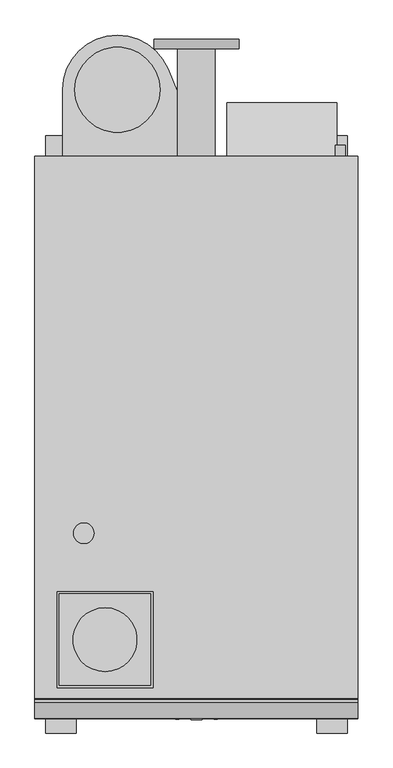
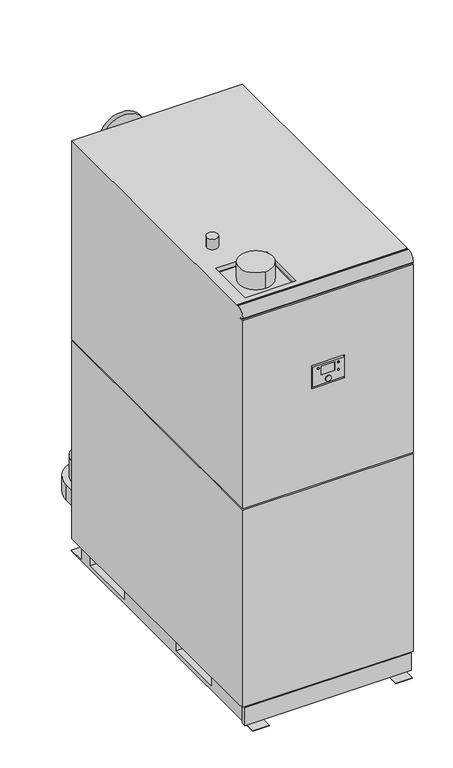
"""IFC4 building model written with IfcOpenShell, lengths in millimetres: unitary equipment geometry, AIC_Boiler_Nesta_Plus_280-840 : N 420 FS Chimney Type C."""

from ifc_helpers import new_model, si_unit, point, frame, frame_2d, origin, place, context, project, spatial, polyline, circle_curve, trimmed, segment, composite_curve, outline, extrude, faceted_brep, source, transform, mapped, element, save
from ifc_brep_helpers import plane_surface, cylinder_surface, advanced_brep


def unitary_equipment_db46aa15(model_context):
    return source(origin(), model_context, "Body", "SolidModel", [
        extrude(outline(composite_curve([segment(trimmed(circle_curve(frame_2d((100.0, 277.0)), 13.35), [point((100.0, 290.35))], [point((100.0, 263.65))], False, "CARTESIAN"), True, "CONTINUOUS"), segment(trimmed(circle_curve(frame_2d((100.0, 277.0)), 13.35), [point((100.0, 263.65))], [point((100.0, 290.35))], False, "CARTESIAN"), True, "CONTINUOUS")], self_intersect=False)), frame((0.0, 91.0, 0.0), z_axis=(0.0, 1.0, 0.0), x_axis=(0.0, 0.0, 1.0)), (0.0, 0.0, 1.0), 24.0),
        faceted_brep([(330.0, 0.0, 80.0), (330.0, 126.0, 80.0), (330.0, 126.0, 81.0), (330.0, 1.0, 81.0), (330.0, 1.0, 140.0), (330.0, 126.0, 140.0), (330.0, 126.0, 242.0), (330.0, 0.0, 310.0), (72.0, 0.0, 80.0), (72.0, 0.0, 310.0), (72.0, 126.0, 242.0), (72.0, 126.0, 80.0), (248.0, 126.0, 140.0), (248.0, 126.0, 81.0), (297.0, 1.0, 140.0), (297.0, 1.0, 81.0), (297.0, 91.0, 81.0), (297.0, 91.0, 140.0), (248.0, 91.0, 81.0), (248.0, 91.0, 140.0)], [[[0, 1, 2, 3, 4, 5, 6, 7]], [[8, 9, 10, 11]], [[1, 0, 8, 11]], [[11, 10, 6, 5, 12, 13, 2, 1]], [[7, 6, 10, 9]], [[0, 7, 9, 8]], [[14, 4, 3, 15]], [[14, 15, 16, 17]], [[15, 3, 2, 13, 18, 16]], [[4, 14, 17, 19, 12, 5]], [[19, 17, 16, 18]], [[19, 18, 13, 12]]]),
        extrude(outline(composite_curve([segment(trimmed(circle_curve(frame_2d((1520.0, 0.0)), 13.0), [point((1520.0, -13.0))], [point((1520.0, 13.0))], False, "CARTESIAN"), True, "CONTINUOUS"), segment(trimmed(circle_curve(frame_2d((1520.0, 0.0)), 13.0), [point((1520.0, 13.0))], [point((1520.0, -13.0))], False, "CARTESIAN"), True, "CONTINUOUS")], self_intersect=False)), frame((0.0, -1323.0, 0.0), z_axis=(0.0, 1.0, 0.0), x_axis=(0.0, 0.0, 1.0)), (0.0, 0.0, 1.0), 3.0),
        extrude(outline(composite_curve([segment(trimmed(circle_curve(frame_2d((1581.0, -45.0)), 4.0), [point((1581.0, -49.0))], [point((1581.0, -41.0))], False, "CARTESIAN"), True, "CONTINUOUS"), segment(trimmed(circle_curve(frame_2d((1581.0, -45.0)), 4.0), [point((1581.0, -41.0))], [point((1581.0, -49.0))], False, "CARTESIAN"), True, "CONTINUOUS")], self_intersect=False)), frame((0.0, -1322.0, 0.0), z_axis=(0.0, 1.0, 0.0), x_axis=(0.0, 0.0, 1.0)), (0.0, 0.0, 1.0), 2.0),
        extrude(outline(composite_curve([segment(trimmed(circle_curve(frame_2d((1581.0, 45.0)), 4.0), [point((1581.0, 41.0))], [point((1581.0, 49.0))], False, "CARTESIAN"), True, "CONTINUOUS"), segment(trimmed(circle_curve(frame_2d((1581.0, 45.0)), 4.0), [point((1581.0, 49.0))], [point((1581.0, 41.0))], False, "CARTESIAN"), True, "CONTINUOUS")], self_intersect=False)), frame((0.0, -1322.0, 0.0), z_axis=(0.0, 1.0, 0.0), x_axis=(0.0, 0.0, 1.0)), (0.0, 0.0, 1.0), 2.0),
        extrude(outline(composite_curve([segment(trimmed(circle_curve(frame_2d((1546.0, 45.0)), 4.0), [point((1546.0, 41.0))], [point((1546.0, 49.0))], False, "CARTESIAN"), True, "CONTINUOUS"), segment(trimmed(circle_curve(frame_2d((1546.0, 45.0)), 4.0), [point((1546.0, 49.0))], [point((1546.0, 41.0))], False, "CARTESIAN"), True, "CONTINUOUS")], self_intersect=False)), frame((0.0, -1322.0, 0.0), z_axis=(0.0, 1.0, 0.0), x_axis=(0.0, 0.0, 1.0)), (0.0, 0.0, 1.0), 2.0),
        faceted_brep([(71.0, -1310.0, 1596.0), (71.0, -1310.0, 1502.0), (-71.0, -1310.0, 1502.0), (-71.0, -1310.0, 1596.0), (71.0, -1320.0, 1596.0), (-71.0, -1320.0, 1596.0), (-71.0, -1320.0, 1502.0), (71.0, -1320.0, 1502.0), (-30.0, -1320.0, 1585.0), (30.0, -1320.0, 1585.0), (30.0, -1320.0, 1545.0), (-30.0, -1320.0, 1545.0), (30.0, -1319.0, 1585.0), (-30.0, -1319.0, 1585.0), (-30.0, -1319.0, 1545.0), (30.0, -1319.0, 1545.0)], [[[0, 1, 2, 3]], [[4, 5, 6, 7], [8, 9, 10, 11]], [[0, 3, 5, 4]], [[3, 2, 6, 5]], [[2, 1, 7, 6]], [[1, 0, 4, 7]], [[12, 13, 14, 15]], [[13, 12, 9, 8]], [[14, 13, 8, 11]], [[15, 14, 11, 10]], [[12, 15, 10, 9]]]),
        extrude(outline(composite_curve([segment(trimmed(circle_curve(frame_2d((-265.0, -885.0)), 24.15), [point((-289.15, -885.0))], [point((-240.85, -885.0))], False, "CARTESIAN"), True, "CONTINUOUS"), segment(trimmed(circle_curve(frame_2d((-265.0, -885.0)), 24.15), [point((-240.85, -885.0))], [point((-289.15, -885.0))], False, "CARTESIAN"), True, "CONTINUOUS")], self_intersect=False)), frame((0.0, 0.0, 1970.0), z_axis=(0.0, 0.0, 1.0), x_axis=(1.0, 0.0, 0.0)), (0.0, 0.0, 1.0), 49.0),
        extrude(outline(composite_curve([segment(trimmed(circle_curve(frame_2d((1038.0, 338.0)), 11.6), [point((1038.0, 326.4))], [point((1038.0, 349.6))], False, "CARTESIAN"), True, "CONTINUOUS"), segment(trimmed(circle_curve(frame_2d((1038.0, 338.0)), 11.6), [point((1038.0, 349.6))], [point((1038.0, 326.4))], False, "CARTESIAN"), True, "CONTINUOUS")], self_intersect=False)), frame((0.0, 0.0, 0.0), z_axis=(0.0, 1.0, 0.0), x_axis=(0.0, 0.0, 1.0)), (0.0, 0.0, 1.0), 26.0),
        extrude(outline(composite_curve([segment(trimmed(circle_curve(frame_2d((-215.0, -1135.0)), 75.0), [point((-215.0, -1060.0))], [point((-215.0, -1210.0))], False, "CARTESIAN"), True, "CONTINUOUS"), segment(trimmed(circle_curve(frame_2d((-215.0, -1135.0)), 75.0), [point((-215.0, -1210.0))], [point((-215.0, -1060.0))], False, "CARTESIAN"), True, "CONTINUOUS")], self_intersect=False)), frame((0.0, 0.0, 1950.0), z_axis=(0.0, 0.0, 1.0), x_axis=(1.0, 0.0, 0.0)), (0.0, 0.0, 1.0), 80.0),
        extrude(outline(polyline([(-107.5, -1027.5), (-107.5, -1242.5), (-322.5, -1242.5), (-322.5, -1027.5), (-107.5, -1027.5)])), frame((0.0, 0.0, 1950.0), z_axis=(0.0, 0.0, 1.0), x_axis=(1.0, 0.0, 0.0)), (0.0, 0.0, 1.0), 1.0),
        advanced_brep(
        [(100.0, 253.0, 1706.0), (-100.0, 253.0, 1706.0), (44.0, 253.0, 1706.0), (-44.0, 253.0, 1706.0), (100.0, 275.0, 1706.0), (-100.0, 275.0, 1706.0), (-44.0, -10.0, 1706.0), (44.0, -10.0, 1706.0)],
        [
            (0, 1, circle_curve(frame((0.0, 253.0, 1706.0), z_axis=(0.0, -1.0, 0.0), x_axis=(-1.0, 0.0, 0.0)), 100.0)),
            (1, 0, circle_curve(frame((0.0, 253.0, 1706.0), z_axis=(0.0, -1.0, 0.0), x_axis=(-1.0, 0.0, 0.0)), 100.0)),
            (2, 3, circle_curve(frame((0.0, 253.0, 1706.0), z_axis=(0.0, 1.0, 0.0), x_axis=(1.0, 0.0, 0.0)), 44.0)),
            (3, 2, circle_curve(frame((0.0, 253.0, 1706.0), z_axis=(0.0, 1.0, 0.0), x_axis=(1.0, 0.0, 0.0)), 44.0)),
            (4, 5, circle_curve(frame((0.0, 275.0, 1706.0), z_axis=(0.0, 1.0, 0.0), x_axis=(-1.0, 0.0, 0.0)), 100.0)),
            (5, 4, circle_curve(frame((0.0, 275.0, 1706.0), z_axis=(0.0, 1.0, 0.0), x_axis=(-1.0, 0.0, 0.0)), 100.0)),
            (1, 5),
            (4, 0),
            (6, 7, circle_curve(frame((0.0, -10.0, 1706.0), z_axis=(0.0, -1.0, 0.0), x_axis=(1.0, 0.0, 0.0)), 44.0)),
            (7, 6, circle_curve(frame((0.0, -10.0, 1706.0), z_axis=(0.0, -1.0, 0.0), x_axis=(1.0, 0.0, 0.0)), 44.0)),
            (6, 3),
            (2, 7),
        ],
        [
            plane_surface(frame((-100.0, 253.0, 1706.0), z_axis=(0.0, -1.0, 0.0), x_axis=(0.0, 0.0, -1.0))),
            plane_surface(frame((-100.0, 275.0, 1706.0), z_axis=(0.0, 1.0, 0.0), x_axis=(0.0, 0.0, 1.0))),
            cylinder_surface(frame((0.0, 253.0, 1706.0), z_axis=(0.0, 1.0, 0.0), x_axis=(-1.0, 0.0, 0.0)), 100.0),
            plane_surface(frame((44.0, -10.0, 1706.0), z_axis=(0.0, -1.0, 0.0), x_axis=(0.0, 0.0, 1.0))),
            cylinder_surface(frame((0.0, 275.0, 1706.0), z_axis=(0.0, -1.0, 0.0), x_axis=(1.0, 0.0, 0.0)), 44.0),
        ],
        [
            (0, [[1, 2], [3, 4]]),
            (1, [[5, 6]]),
            (2, [[-2, 7, -5, 8]]),
            (2, [[-1, -8, -6, -7]]),
            (3, [[9, 10]]),
            (4, [[-9, 11, -3, 12]]),
            (4, [[-10, -12, -4, -11]]),
        ],
    ),
        advanced_brep(
        [(-44.0, 0.0, 335.0), (44.0, 0.0, 335.0), (100.0, 275.0, 335.0), (-100.0, 275.0, 335.0), (-44.0, 253.0, 335.0), (44.0, 253.0, 335.0), (100.0, 253.0, 335.0), (-100.0, 253.0, 335.0)],
        [
            (0, 1, circle_curve(frame((0.0, 0.0, 335.0), z_axis=(0.0, -1.0, 0.0), x_axis=(1.0, 0.0, 0.0)), 44.0)),
            (1, 0, circle_curve(frame((0.0, 0.0, 335.0), z_axis=(0.0, -1.0, 0.0), x_axis=(1.0, 0.0, 0.0)), 44.0)),
            (2, 3, circle_curve(frame((0.0, 275.0, 335.0), z_axis=(0.0, 1.0, 0.0), x_axis=(-1.0, 0.0, 0.0)), 100.0)),
            (3, 2, circle_curve(frame((0.0, 275.0, 335.0), z_axis=(0.0, 1.0, 0.0), x_axis=(-1.0, 0.0, 0.0)), 100.0)),
            (0, 4),
            (4, 5, circle_curve(frame((0.0, 253.0, 335.0), z_axis=(0.0, -1.0, 0.0), x_axis=(1.0, 0.0, 0.0)), 44.0)),
            (5, 1),
            (5, 4, circle_curve(frame((0.0, 253.0, 335.0), z_axis=(0.0, -1.0, 0.0), x_axis=(1.0, 0.0, 0.0)), 44.0)),
            (6, 7, circle_curve(frame((0.0, 253.0, 335.0), z_axis=(0.0, -1.0, 0.0), x_axis=(-1.0, 0.0, 0.0)), 100.0)),
            (7, 6, circle_curve(frame((0.0, 253.0, 335.0), z_axis=(0.0, -1.0, 0.0), x_axis=(-1.0, 0.0, 0.0)), 100.0)),
            (7, 3),
            (2, 6),
        ],
        [
            plane_surface(frame((44.0, 0.0, 335.0), z_axis=(0.0, -1.0, 0.0), x_axis=(0.0, 0.0, 1.0))),
            plane_surface(frame((44.0, 275.0, 335.0), z_axis=(0.0, 1.0, 0.0), x_axis=(0.0, 0.0, -1.0))),
            cylinder_surface(frame((0.0, 275.0, 335.0), z_axis=(0.0, -1.0, 0.0), x_axis=(1.0, 0.0, 0.0)), 44.0),
            plane_surface(frame((-100.0, 253.0, 335.0), z_axis=(0.0, -1.0, 0.0), x_axis=(0.0, 0.0, -1.0))),
            cylinder_surface(frame((0.0, 253.0, 335.0), z_axis=(0.0, 1.0, 0.0), x_axis=(-1.0, 0.0, 0.0)), 100.0),
        ],
        [
            (0, [[1, 2]]),
            (1, [[3, 4]]),
            (2, [[-1, 5, 6, 7]]),
            (2, [[-2, -7, 8, -5]]),
            (3, [[9, 10], [-6, -8]]),
            (4, [[-10, 11, -3, 12]]),
            (4, [[-9, -12, -4, -11]]),
        ],
    ),
        extrude(outline(composite_curve([segment(trimmed(circle_curve(frame_2d((-186.0, 157.0)), 100.0), [point((-86.0, 157.0))], [point((-286.0, 157.0))], False, "CARTESIAN"), True, "CONTINUOUS"), segment(trimmed(circle_curve(frame_2d((-186.0, 157.0)), 100.0), [point((-286.0, 157.0))], [point((-86.0, 157.0))], False, "CARTESIAN"), True, "CONTINUOUS")], self_intersect=False)), frame((0.0, 0.0, 228.0), z_axis=(0.0, 0.0, 1.0), x_axis=(1.0, 0.0, 0.0)), (0.0, 0.0, 1.0), 97.0),
        extrude(outline(composite_curve([segment(trimmed(circle_curve(frame_2d((-186.0, 157.0)), 128.4478761), [point((-314.4478761, 157.0))], [point((-67.3169163, 206.1241541))], False, "CARTESIAN"), True, "CONTINUOUS"), segment(polyline([(-67.3169163, 206.1241541), (18.0, 0.0), (-314.4478761, 0.0), (-314.4478761, 157.0)]), True, "CONTINUOUS")], self_intersect=False)), frame((0.0, 0.0, 157.0), z_axis=(0.0, 0.0, 1.0), x_axis=(1.0, 0.0, 0.0)), (0.0, 0.0, 1.0), 71.0),
        advanced_brep(
        [(380.0, 0.0, 1970.0), (-380.0, 0.0, 1970.0), (-380.0, -1272.0, 1970.0), (380.0, -1272.0, 1970.0), (-328.0, -1022.0, 1970.0), (-102.0, -1022.0, 1970.0), (-102.0, -1248.0, 1970.0), (-328.0, -1248.0, 1970.0), (-380.0, -1281.6616502, 1970.0), (380.0, -1281.6616502, 1970.0), (380.0, -1276.0, 1970.0), (-380.0, -1276.0, 1970.0), (36.0, -1300.0, 0.0), (-36.0, -1300.0, 0.0), (-36.0, -31.0, 0.0), (36.0, -31.0, 0.0), (-355.0, 49.0, 0.0), (-283.0, 49.0, 0.0), (-283.0, -1354.0, 0.0), (-355.0, -1354.0, 0.0), (283.0, 49.0, 0.0), (355.0, 49.0, 0.0), (355.0, -1354.0, 0.0), (283.0, -1354.0, 0.0), (380.0, 0.0, 1036.0), (380.0, -1272.0, 1968.0), (380.0, -1276.0, 1968.0), (380.0, -1320.0, 1931.6616502), (380.0, -1320.0, 1929.0), (380.0, -1300.0, 1929.0), (380.0, -1300.0, 1923.0), (380.0, -1320.0, 1923.0), (380.0, -1320.0, 1036.0), (380.0, 0.0, 1030.0), (380.0, -1320.0, 1030.0), (380.0, -1320.0, 100.0), (380.0, -1300.0, 100.0), (380.0, -1300.0, 95.0), (380.0, 0.0, 95.0), (371.0, 0.0, 1036.0), (371.0, 0.0, 1030.0), (-380.0, 0.0, 95.0), (-380.0, 0.0, 1030.0), (-371.0, 0.0, 1030.0), (-371.0, 0.0, 1036.0), (-380.0, 0.0, 1036.0), (-380.0, -1320.0, 1036.0), (-380.0, -1320.0, 1923.0), (-380.0, -1300.0, 1923.0), (-380.0, -1300.0, 1929.0), (-380.0, -1320.0, 1929.0), (-380.0, -1320.0, 1931.6616502), (-380.0, -1276.0, 1968.0), (-380.0, -1272.0, 1968.0), (-380.0, -1320.0, 1030.0), (-380.0, -1300.0, 95.0), (-380.0, -1300.0, 100.0), (-380.0, -1320.0, 100.0), (-73.0, -1320.0, 1603.0), (73.0, -1320.0, 1603.0), (73.0, -1320.0, 1495.0), (-73.0, -1320.0, 1495.0), (371.0, -1320.0, 12.0), (371.0, -1320.0, 95.0), (-371.0, -1320.0, 95.0), (-371.0, -1320.0, 12.0), (-371.0, -1300.0, 1036.0), (371.0, -1300.0, 1036.0), (371.0, -1300.0, 1030.0), (-371.0, -1300.0, 1030.0), (36.0, -1300.0, 12.0), (-36.0, -1300.0, 12.0), (-371.0, -1300.0, 95.0), (-355.0, -1300.0, 95.0), (-283.0, -1300.0, 95.0), (-36.0, -1300.0, 95.0), (36.0, -1300.0, 95.0), (283.0, -1300.0, 95.0), (355.0, -1300.0, 95.0), (371.0, -1300.0, 95.0), (-283.0, -1300.0, 12.0), (-355.0, -1300.0, 12.0), (-355.0, -1300.0, 3.0), (-283.0, -1300.0, 3.0), (355.0, -1300.0, 12.0), (283.0, -1300.0, 12.0), (283.0, -1300.0, 3.0), (355.0, -1300.0, 3.0), (371.0, -1300.0, 12.0), (-371.0, -1300.0, 12.0), (-36.0, -1300.0, 95.0), (-283.0, -1300.0, 95.0), (-283.0, -31.0, 95.0), (-355.0, -31.0, 95.0), (-355.0, -1300.0, 95.0), (355.0, -1300.0, 95.0), (355.0, -31.0, 95.0), (283.0, -31.0, 95.0), (283.0, -1300.0, 95.0), (36.0, -1300.0, 95.0), (36.0, -31.0, 95.0), (-36.0, -31.0, 95.0), (-355.0, -31.0, 3.0), (-355.0, 49.0, 3.0), (-355.0, -1354.0, 3.0), (-355.0, -762.0, 80.0), (-355.0, -1034.0, 80.0), (-355.0, -1034.0, 20.0), (-355.0, -762.0, 20.0), (-355.0, -100.0, 80.0), (-355.0, -362.0, 80.0), (-355.0, -362.0, 20.0), (-355.0, -100.0, 20.0), (355.0, -1354.0, 3.0), (355.0, 49.0, 3.0), (355.0, -31.0, 3.0), (355.0, -1034.0, 80.0), (355.0, -762.0, 80.0), (355.0, -762.0, 20.0), (355.0, -1034.0, 20.0), (355.0, -362.0, 80.0), (355.0, -100.0, 80.0), (355.0, -100.0, 20.0), (355.0, -362.0, 20.0), (-283.0, -1354.0, 3.0), (-283.0, 49.0, 3.0), (-283.0, -31.0, 3.0), (-283.0, -1034.0, 80.0), (-283.0, -762.0, 80.0), (-283.0, -762.0, 20.0), (-283.0, -1034.0, 20.0), (-283.0, -362.0, 80.0), (-283.0, -100.0, 80.0), (-283.0, -100.0, 20.0), (-283.0, -362.0, 20.0), (-36.0, -762.0, 80.0), (-36.0, -1034.0, 80.0), (-36.0, -1034.0, 20.0), (-36.0, -762.0, 20.0), (-36.0, -100.0, 80.0), (-36.0, -362.0, 80.0), (-36.0, -362.0, 20.0), (-36.0, -100.0, 20.0), (36.0, -1034.0, 80.0), (36.0, -762.0, 80.0), (36.0, -762.0, 20.0), (36.0, -1034.0, 20.0), (36.0, -362.0, 80.0), (36.0, -100.0, 80.0), (36.0, -100.0, 20.0), (36.0, -362.0, 20.0), (283.0, -31.0, 3.0), (283.0, 49.0, 3.0), (283.0, -1354.0, 3.0), (283.0, -762.0, 80.0), (283.0, -1034.0, 80.0), (283.0, -1034.0, 20.0), (283.0, -762.0, 20.0), (283.0, -100.0, 80.0), (283.0, -362.0, 80.0), (283.0, -362.0, 20.0), (283.0, -100.0, 20.0), (73.0, -1300.0, 1603.0), (-73.0, -1300.0, 1603.0), (-73.0, -1300.0, 1495.0), (73.0, -1300.0, 1495.0), (-102.0, -1022.0, 1950.0), (-328.0, -1022.0, 1950.0), (-328.0, -1248.0, 1950.0), (-102.0, -1248.0, 1950.0)],
        [
            (0, 1),
            (1, 2),
            (2, 3),
            (3, 0),
            (4, 5),
            (5, 6),
            (6, 7),
            (7, 4),
            (8, 9),
            (9, 10),
            (10, 11),
            (11, 8),
            (12, 13),
            (13, 14),
            (14, 15),
            (15, 12),
            (16, 17),
            (17, 18),
            (18, 19),
            (19, 16),
            (20, 21),
            (21, 22),
            (22, 23),
            (23, 20),
            (24, 0),
            (3, 25),
            (25, 26),
            (26, 10),
            (9, 27, circle_curve(frame((380.0, -1281.6616502, 1931.6616502), z_axis=(1.0, 0.0, 0.0), x_axis=(0.0, 1.0, 0.0)), 38.3383498)),
            (27, 28),
            (28, 29),
            (29, 30),
            (30, 31),
            (31, 32),
            (32, 24),
            (33, 34),
            (34, 35),
            (35, 36),
            (36, 37),
            (37, 38),
            (38, 33),
            (24, 39),
            (39, 40),
            (40, 33),
            (38, 41),
            (41, 42),
            (42, 43),
            (43, 44),
            (44, 45),
            (45, 1),
            (45, 46),
            (46, 47),
            (47, 48),
            (48, 49),
            (49, 50),
            (50, 51),
            (51, 8, circle_curve(frame((-380.0, -1281.6616502, 1931.6616502), z_axis=(-1.0, 0.0, 0.0), x_axis=(0.0, 1.0, 0.0)), 38.3383498)),
            (11, 52),
            (52, 53),
            (53, 2),
            (54, 42),
            (41, 55),
            (55, 56),
            (56, 57),
            (57, 54),
            (46, 32),
            (31, 47),
            (58, 59),
            (59, 60),
            (60, 61),
            (61, 58),
            (34, 54),
            (57, 35),
            (27, 51),
            (50, 28),
            (62, 63),
            (63, 64),
            (64, 65),
            (65, 62),
            (44, 66),
            (66, 67),
            (67, 39),
            (40, 68),
            (68, 69),
            (69, 43),
            (67, 68),
            (66, 69),
            (30, 48),
            (29, 49),
            (26, 52),
            (25, 53),
            (12, 70),
            (70, 71),
            (71, 13),
            (36, 56),
            (55, 72),
            (72, 73),
            (73, 74),
            (74, 75),
            (75, 76),
            (76, 77),
            (77, 78),
            (78, 79),
            (79, 37),
            (80, 81),
            (81, 82),
            (82, 83),
            (83, 80),
            (84, 85),
            (85, 86),
            (86, 87),
            (87, 84),
            (62, 88),
            (88, 79),
            (79, 63),
            (65, 89),
            (89, 81),
            (80, 71),
            (70, 85),
            (84, 88),
            (64, 72),
            (72, 89),
            (90, 91),
            (91, 92),
            (92, 93),
            (93, 94),
            (94, 72),
            (79, 95),
            (95, 96),
            (96, 97),
            (97, 98),
            (98, 99),
            (99, 100),
            (100, 101),
            (101, 90),
            (94, 81),
            (93, 102),
            (102, 103),
            (103, 16),
            (19, 104),
            (104, 82),
            (105, 106),
            (106, 107),
            (107, 108),
            (108, 105),
            (109, 110),
            (110, 111),
            (111, 112),
            (112, 109),
            (95, 84),
            (87, 113),
            (113, 22),
            (21, 114),
            (114, 115),
            (115, 96),
            (116, 117),
            (117, 118),
            (118, 119),
            (119, 116),
            (120, 121),
            (121, 122),
            (122, 123),
            (123, 120),
            (91, 80),
            (83, 124),
            (124, 18),
            (17, 125),
            (125, 126),
            (126, 92),
            (127, 128),
            (128, 129),
            (129, 130),
            (130, 127),
            (131, 132),
            (132, 133),
            (133, 134),
            (134, 131),
            (90, 71),
            (101, 14),
            (135, 136),
            (136, 137),
            (137, 138),
            (138, 135),
            (139, 140),
            (140, 141),
            (141, 142),
            (142, 139),
            (99, 70),
            (15, 100),
            (143, 144),
            (144, 145),
            (145, 146),
            (146, 143),
            (147, 148),
            (148, 149),
            (149, 150),
            (150, 147),
            (98, 85),
            (97, 151),
            (151, 152),
            (152, 20),
            (23, 153),
            (153, 86),
            (154, 155),
            (155, 156),
            (156, 157),
            (157, 154),
            (158, 159),
            (159, 160),
            (160, 161),
            (161, 158),
            (126, 102),
            (115, 151),
            (105, 128),
            (127, 106),
            (135, 144),
            (143, 136),
            (154, 117),
            (116, 155),
            (130, 107),
            (146, 137),
            (119, 156),
            (129, 108),
            (145, 138),
            (118, 157),
            (109, 132),
            (131, 110),
            (139, 148),
            (147, 140),
            (158, 121),
            (120, 159),
            (134, 111),
            (150, 141),
            (123, 160),
            (133, 112),
            (149, 142),
            (122, 161),
            (114, 152),
            (125, 103),
            (104, 124),
            (153, 113),
            (162, 163),
            (163, 164),
            (164, 165),
            (165, 162),
            (162, 59),
            (58, 163),
            (61, 164),
            (60, 165),
            (166, 167),
            (167, 168),
            (168, 169),
            (169, 166),
            (166, 5),
            (4, 167),
            (7, 168),
            (6, 169),
        ],
        [
            plane_surface(frame((380.0, -1320.0, 1970.0), z_axis=(0.0, 0.0, 1.0), x_axis=(0.0, 1.0, 0.0))),
            plane_surface(frame((380.0, -1320.0, 0.0), z_axis=(0.0, 0.0, -1.0), x_axis=(0.0, -1.0, 0.0))),
            plane_surface(frame((380.0, -1320.0, 1970.0), z_axis=(1.0, 0.0, 0.0), x_axis=(0.0, 0.0, -1.0))),
            plane_surface(frame((380.0, 0.0, 1970.0), z_axis=(0.0, 1.0, 0.0), x_axis=(0.0, 0.0, -1.0))),
            plane_surface(frame((-380.0, 0.0, 1970.0), z_axis=(-1.0, 0.0, 0.0), x_axis=(0.0, 0.0, -1.0))),
            plane_surface(frame((-380.0, -1320.0, 1970.0), z_axis=(0.0, -1.0, 0.0), x_axis=(0.0, 0.0, -1.0))),
            plane_surface(frame((-380.0, 0.0, 1036.0), z_axis=(0.0, 0.0, -1.0), x_axis=(-1.0, 0.0, 0.0))),
            plane_surface(frame((-380.0, 0.0, 1030.0), z_axis=(0.0, 0.0, 1.0), x_axis=(1.0, 0.0, 0.0))),
            plane_surface(frame((371.0, 0.0, 1036.0), z_axis=(1.0, 0.0, 0.0), x_axis=(0.0, 0.0, -1.0))),
            plane_surface(frame((371.0, -1300.0, 1036.0), z_axis=(0.0, -1.0, 0.0), x_axis=(0.0, 0.0, -1.0))),
            plane_surface(frame((-371.0, -1300.0, 1036.0), z_axis=(-1.0, 0.0, 0.0), x_axis=(0.0, 0.0, -1.0))),
            cylinder_surface(frame((-380.0, -1281.6616502, 1931.6616502), z_axis=(-1.0, 0.0, 0.0), x_axis=(0.0, 1.0, 0.0)), 38.3383498),
            plane_surface(frame((380.0, -1320.0, 1923.0), z_axis=(0.0, 0.0, 1.0), x_axis=(-1.0, 0.0, 0.0))),
            plane_surface(frame((380.0, -1300.0, 1923.0), z_axis=(0.0, -1.0, 0.0), x_axis=(-1.0, 0.0, 0.0))),
            plane_surface(frame((380.0, -1300.0, 1929.0), z_axis=(0.0, 0.0, -1.0), x_axis=(-1.0, 0.0, 0.0))),
            plane_surface(frame((380.0, -1276.0, 1970.0), z_axis=(0.0, 1.0, 0.0), x_axis=(-1.0, 0.0, 0.0))),
            plane_surface(frame((380.0, -1276.0, 1968.0), z_axis=(0.0, 0.0, 1.0), x_axis=(-1.0, 0.0, 0.0))),
            plane_surface(frame((380.0, -1272.0, 1968.0), z_axis=(0.0, -1.0, 0.0), x_axis=(-1.0, 0.0, 0.0))),
            plane_surface(frame((371.0, -1300.0, 95.0), z_axis=(0.0, -1.0, 0.0), x_axis=(0.0, 0.0, 1.0))),
            plane_surface(frame((371.0, -1320.0, 95.0), z_axis=(1.0, 0.0, 0.0), x_axis=(0.0, 1.0, 0.0))),
            plane_surface(frame((371.0, -1320.0, 12.0), z_axis=(0.0, 0.0, -1.0), x_axis=(0.0, 1.0, 0.0))),
            plane_surface(frame((-371.0, -1320.0, 12.0), z_axis=(-1.0, 0.0, 0.0), x_axis=(0.0, 1.0, 0.0))),
            plane_surface(frame((-371.0, -1320.0, 95.0), z_axis=(0.0, 0.0, 1.0), x_axis=(0.0, 1.0, 0.0))),
            plane_surface(frame((380.0, -1320.0, 100.0), z_axis=(0.0, 0.0, -1.0), x_axis=(0.0, 1.0, 0.0))),
            plane_surface(frame((-380.0, 0.0, 95.0), z_axis=(0.0, 0.0, -1.0), x_axis=(-1.0, 0.0, 0.0))),
            plane_surface(frame((-380.0, -1300.0, 95.0), z_axis=(0.0, 1.0, 0.0), x_axis=(0.0, 0.0, -1.0))),
            plane_surface(frame((-355.0, -1300.0, 95.0), z_axis=(-1.0, 0.0, 0.0), x_axis=(0.0, 0.0, -1.0))),
            plane_surface(frame((355.0, 0.0, 95.0), z_axis=(1.0, 0.0, 0.0), x_axis=(0.0, 0.0, -1.0))),
            plane_surface(frame((355.0, -1300.0, 95.0), z_axis=(0.0, 1.0, 0.0), x_axis=(0.0, 0.0, -1.0))),
            plane_surface(frame((-283.0, 0.0, 95.0), z_axis=(1.0, 0.0, 0.0), x_axis=(0.0, 0.0, -1.0))),
            plane_surface(frame((-283.0, -1300.0, 95.0), z_axis=(0.0, 1.0, 0.0), x_axis=(0.0, 0.0, -1.0))),
            plane_surface(frame((-36.0, -1300.0, 95.0), z_axis=(-1.0, 0.0, 0.0), x_axis=(0.0, 0.0, -1.0))),
            plane_surface(frame((36.0, 0.0, 95.0), z_axis=(1.0, 0.0, 0.0), x_axis=(0.0, 0.0, -1.0))),
            plane_surface(frame((36.0, -1300.0, 95.0), z_axis=(0.0, 1.0, 0.0), x_axis=(0.0, 0.0, -1.0))),
            plane_surface(frame((283.0, -1300.0, 95.0), z_axis=(-1.0, 0.0, 0.0), x_axis=(0.0, 0.0, -1.0))),
            plane_surface(frame((-380.0, -31.0, 95.0), z_axis=(0.0, 1.0, 0.0), x_axis=(0.0, 0.0, -1.0))),
            plane_surface(frame((355.0, -762.0, 80.0), z_axis=(0.0, 0.0, -1.0), x_axis=(-1.0, 0.0, 0.0))),
            plane_surface(frame((355.0, -1034.0, 80.0), z_axis=(0.0, 1.0, 0.0), x_axis=(-1.0, 0.0, 0.0))),
            plane_surface(frame((355.0, -1034.0, 20.0), z_axis=(0.0, 0.0, 1.0), x_axis=(-1.0, 0.0, 0.0))),
            plane_surface(frame((355.0, -762.0, 20.0), z_axis=(0.0, -1.0, 0.0), x_axis=(-1.0, 0.0, 0.0))),
            plane_surface(frame((355.0, -100.0, 80.0), z_axis=(0.0, 0.0, -1.0), x_axis=(-1.0, 0.0, 0.0))),
            plane_surface(frame((355.0, -362.0, 80.0), z_axis=(0.0, 1.0, 0.0), x_axis=(-1.0, 0.0, 0.0))),
            plane_surface(frame((355.0, -362.0, 20.0), z_axis=(0.0, 0.0, 1.0), x_axis=(-1.0, 0.0, 0.0))),
            plane_surface(frame((355.0, -100.0, 20.0), z_axis=(0.0, -1.0, 0.0), x_axis=(-1.0, 0.0, 0.0))),
            plane_surface(frame((-355.0, 49.0, 3.0), z_axis=(0.0, 0.0, 1.0), x_axis=(-1.0, 0.0, 0.0))),
            plane_surface(frame((-283.0, 49.0, 3.0), z_axis=(0.0, 1.0, 0.0), x_axis=(0.0, 0.0, -1.0))),
            plane_surface(frame((355.0, 49.0, 3.0), z_axis=(0.0, 1.0, 0.0), x_axis=(0.0, 0.0, -1.0))),
            plane_surface(frame((-355.0, -1354.0, 3.0), z_axis=(0.0, -1.0, 0.0), x_axis=(0.0, 0.0, -1.0))),
            plane_surface(frame((283.0, -1354.0, 3.0), z_axis=(0.0, -1.0, 0.0), x_axis=(0.0, 0.0, -1.0))),
            plane_surface(frame((-73.0, -1300.0, 1603.0), z_axis=(0.0, -1.0, 0.0), x_axis=(1.0, 0.0, 0.0))),
            plane_surface(frame((73.0, -1320.0, 1603.0), z_axis=(0.0, 0.0, -1.0), x_axis=(0.0, 1.0, 0.0))),
            plane_surface(frame((-73.0, -1320.0, 1603.0), z_axis=(1.0, 0.0, 0.0), x_axis=(0.0, 1.0, 0.0))),
            plane_surface(frame((-73.0, -1320.0, 1495.0), z_axis=(0.0, 0.0, 1.0), x_axis=(0.0, 1.0, 0.0))),
            plane_surface(frame((73.0, -1320.0, 1495.0), z_axis=(-1.0, 0.0, 0.0), x_axis=(0.0, 1.0, 0.0))),
            plane_surface(frame((-328.0, -1022.0, 1950.0), z_axis=(0.0, 0.0, 1.0), x_axis=(1.0, 0.0, 0.0))),
            plane_surface(frame((-102.0, -1022.0, 1970.0), z_axis=(0.0, -1.0, 0.0), x_axis=(0.0, 0.0, -1.0))),
            plane_surface(frame((-328.0, -1022.0, 1970.0), z_axis=(1.0, 0.0, 0.0), x_axis=(0.0, 0.0, -1.0))),
            plane_surface(frame((-328.0, -1248.0, 1970.0), z_axis=(0.0, 1.0, 0.0), x_axis=(0.0, 0.0, -1.0))),
            plane_surface(frame((-102.0, -1248.0, 1970.0), z_axis=(-1.0, 0.0, 0.0), x_axis=(0.0, 0.0, -1.0))),
        ],
        [
            (0, [[1, 2, 3, 4], [5, 6, 7, 8]]),
            (0, [[9, 10, 11, 12]]),
            (1, [[13, 14, 15, 16]]),
            (1, [[17, 18, 19, 20]]),
            (1, [[21, 22, 23, 24]]),
            (2, [[25, -4, 26, 27, 28, -10, 29, 30, 31, 32, 33, 34, 35]]),
            (2, [[36, 37, 38, 39, 40, 41]]),
            (3, [[-1, -25, 42, 43, 44, -41, 45, 46, 47, 48, 49, 50]]),
            (4, [[-50, 51, 52, 53, 54, 55, 56, 57, -12, 58, 59, 60, -2]]),
            (4, [[61, -46, 62, 63, 64, 65]]),
            (5, [[66, -34, 67, -52], [68, 69, 70, 71]]),
            (5, [[72, -65, 73, -37]]),
            (5, [[74, -56, 75, -30]]),
            (5, [[76, 77, 78, 79]]),
            (6, [[80, 81, 82, -42, -35, -66, -51, -49]]),
            (7, [[83, 84, 85, -47, -61, -72, -36, -44]]),
            (8, [[-82, 86, -83, -43]]),
            (9, [[-81, 87, -84, -86]]),
            (10, [[-80, -48, -85, -87]]),
            (11, [[-9, -57, -74, -29]]),
            (12, [[88, -53, -67, -33]]),
            (13, [[-88, -32, 89, -54]]),
            (14, [[-89, -31, -75, -55]]),
            (15, [[90, -58, -11, -28]]),
            (16, [[-90, -27, 91, -59]]),
            (17, [[-91, -26, -3, -60]]),
            (18, [[-13, 92, 93, 94]]),
            (18, [[95, -63, 96, 97, 98, 99, 100, 101, 102, 103, 104, -39]]),
            (18, [[105, 106, 107, 108]]),
            (18, [[109, 110, 111, 112]]),
            (19, [[113, 114, 115, -76]]),
            (20, [[-113, -79, 116, 117, -105, 118, -93, 119, -109, 120]]),
            (21, [[-116, -78, 121, 122]]),
            (22, [[-115, -103, -102, -101, -100, -99, -98, -97, -121, -77]]),
            (23, [[-95, -38, -73, -64]]),
            (24, [[123, 124, 125, 126, 127, -96, -62, -45, -40, -104, 128, 129, 130, 131, 132, 133, 134, 135]]),
            (25, [[136, -117, -122, -127]]),
            (26, [[-136, -126, 137, 138, 139, -20, 140, 141, -106], [142, 143, 144, 145], [146, 147, 148, 149]]),
            (27, [[150, -112, 151, 152, -22, 153, 154, 155, -129], [156, 157, 158, 159], [160, 161, 162, 163]]),
            (28, [[-128, -114, -120, -150]]),
            (29, [[164, -108, 165, 166, -18, 167, 168, 169, -124], [170, 171, 172, 173], [174, 175, 176, 177]]),
            (30, [[-123, 178, -118, -164]]),
            (31, [[-178, -135, 179, -14, -94], [180, 181, 182, 183], [184, 185, 186, 187]]),
            (32, [[188, -92, -16, 189, -133], [190, 191, 192, 193], [194, 195, 196, 197]]),
            (33, [[-132, 198, -119, -188]]),
            (34, [[-198, -131, 199, 200, 201, -24, 202, 203, -110], [204, 205, 206, 207], [208, 209, 210, 211]]),
            (35, [[-125, -169, 212, -137]]),
            (35, [[-130, -155, 213, -199]]),
            (35, [[-134, -189, -15, -179]]),
            (36, [[214, -170, 215, -142]]),
            (36, [[216, -190, 217, -180]]),
            (36, [[218, -156, 219, -204]]),
            (37, [[-215, -173, 220, -143]]),
            (37, [[-217, -193, 221, -181]]),
            (37, [[-219, -159, 222, -205]]),
            (38, [[-220, -172, 223, -144]]),
            (38, [[-221, -192, 224, -182]]),
            (38, [[-222, -158, 225, -206]]),
            (39, [[-214, -145, -223, -171]]),
            (39, [[-216, -183, -224, -191]]),
            (39, [[-218, -207, -225, -157]]),
            (40, [[226, -174, 227, -146]]),
            (40, [[228, -194, 229, -184]]),
            (40, [[230, -160, 231, -208]]),
            (41, [[-227, -177, 232, -147]]),
            (41, [[-229, -197, 233, -185]]),
            (41, [[-231, -163, 234, -209]]),
            (42, [[-232, -176, 235, -148]]),
            (42, [[-233, -196, 236, -186]]),
            (42, [[-234, -162, 237, -210]]),
            (43, [[-226, -149, -235, -175]]),
            (43, [[-228, -187, -236, -195]]),
            (43, [[-230, -211, -237, -161]]),
            (44, [[-200, -213, -154, 238]]),
            (44, [[239, -138, -212, -168]]),
            (44, [[240, -165, -107, -141]]),
            (44, [[241, -151, -111, -203]]),
            (45, [[-239, -167, -17, -139]]),
            (46, [[-238, -153, -21, -201]]),
            (47, [[-240, -140, -19, -166]]),
            (48, [[-241, -202, -23, -152]]),
            (49, [[242, 243, 244, 245]]),
            (50, [[-242, 246, -68, 247]]),
            (51, [[-243, -247, -71, 248]]),
            (52, [[-244, -248, -70, 249]]),
            (53, [[-245, -249, -69, -246]]),
            (54, [[250, 251, 252, 253]]),
            (55, [[-250, 254, -5, 255]]),
            (56, [[-251, -255, -8, 256]]),
            (57, [[-252, -256, -7, 257]]),
            (58, [[-253, -257, -6, -254]]),
        ],
    ),
    ])


if __name__ == "__main__":
    model = new_model("IFC4")
    model_context = context("Model", 3, world=origin())
    ifc_project = project(units=[si_unit("LENGTHUNIT", "METRE", prefix="MILLI")], contexts=[model_context])
    site = spatial("IfcSite", under=ifc_project)
    building = spatial("IfcBuilding", under=site)
    placement = place(None, origin())
    unitary_equipment_shape = unitary_equipment_db46aa15(model_context)
    element("IfcUnitaryEquipment", 1, ObjectType="AIC_Boiler_Nesta_Plus_280-840 : N 420 FS Chimney Type C", at=placement, inside=building, context=model_context, shape_type="MappedRepresentation", body=[
        mapped(unitary_equipment_shape, transform((0.0, 0.0, 0.0), x_axis=(1.0, 0.0, 0.0), y_axis=(0.0, 1.0, 0.0), z_axis=(0.0, 0.0, 1.0))),
    ])
    save(model, "model.ifc")
